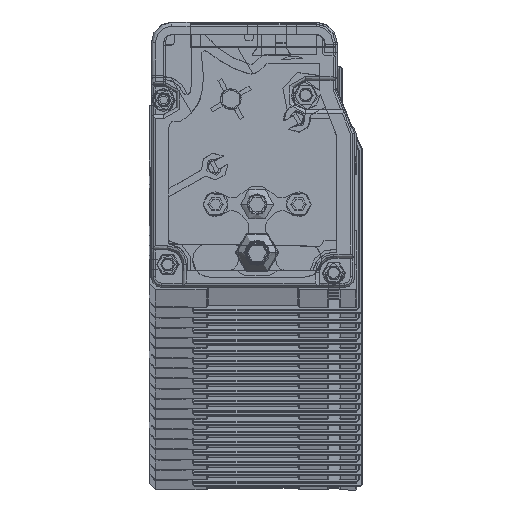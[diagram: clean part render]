
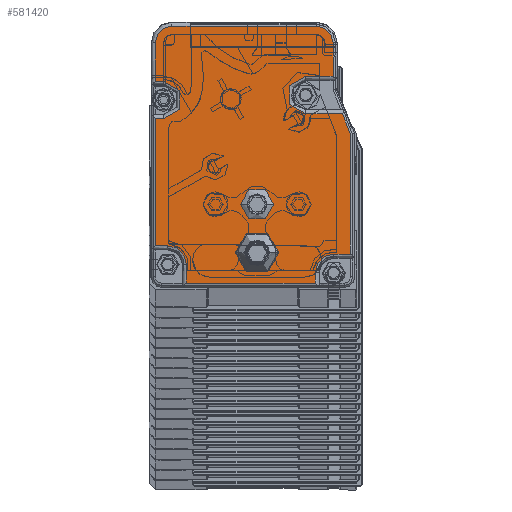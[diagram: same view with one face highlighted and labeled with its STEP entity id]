
A CAD part, top view. The second image highlights one B-rep face of the part: STEP entity #581420.
In plain terms, the highlighted planar face has unit normal (0, 0, 1).
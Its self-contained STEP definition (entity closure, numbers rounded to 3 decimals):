
#501470=CARTESIAN_POINT('',(-20.559,51.727,
2958.89));
#501480=DIRECTION('',(1.,0.,0.));
#501490=VECTOR('',#501480,1.);
#501500=LINE('',#501470,#501490);
#501510=CARTESIAN_POINT('',(-68.559,51.727,
2958.89));
#501520=VERTEX_POINT('',#501510);
#501530=CARTESIAN_POINT('',(-66.559,51.727,
2958.89));
#501540=VERTEX_POINT('',#501530);
#501550=EDGE_CURVE('',#501520,#501540,#501500,.T.);
#502050=CARTESIAN_POINT('',(-20.559,3.124,
2958.89));
#502060=DIRECTION('',(-1.,0.,0.));
#502070=VECTOR('',#502060,1.);
#502080=LINE('',#502050,#502070);
#502090=CARTESIAN_POINT('',(-30.059,3.124,
2958.89));
#502100=VERTEX_POINT('',#502090);
#502110=CARTESIAN_POINT('',(-61.059,3.124,
2958.89));
#502120=VERTEX_POINT('',#502110);
#502130=EDGE_CURVE('',#502100,#502120,#502080,.T.);
#504040=CARTESIAN_POINT('',(-65.559,7.624,
2958.89));
#504050=DIRECTION('',(0.,0.,-1.));
#504060=DIRECTION('',(-1.,0.,0.));
#504070=AXIS2_PLACEMENT_3D('',#504040,#504050,#504060);
#504080=CIRCLE('',#504070,4.5);
#504090=CARTESIAN_POINT('',(-65.559,12.124,
2958.89));
#504100=VERTEX_POINT('',#504090);
#504110=CARTESIAN_POINT('',(-61.059,7.624,
2958.89));
#504120=VERTEX_POINT('',#504110);
#504130=EDGE_CURVE('',#504100,#504120,#504080,.T.);
#544400=CARTESIAN_POINT('',(-32.309,48.424,
2958.89));
#544410=DIRECTION('',(0.,0.,-1.));
#544420=DIRECTION('',(-1.,0.,0.));
#544430=AXIS2_PLACEMENT_3D('',#544400,#544410,#544420);
#544440=CIRCLE('',#544430,4.5);
#544450=CARTESIAN_POINT('',(-32.309,43.924,
2958.89));
#544460=VERTEX_POINT('',#544450);
#544470=CARTESIAN_POINT('',(-32.309,52.924,
2958.89));
#544480=VERTEX_POINT('',#544470);
#544490=EDGE_CURVE('',#544460,#544480,#544440,.T.);
#579420=CARTESIAN_POINT('',(-7.243,2.124,
2958.89));
#579430=DIRECTION('',(0.362,-0.932,0.));
#579440=VECTOR('',#579430,1.);
#579450=LINE('',#579420,#579440);
#579460=CARTESIAN_POINT('',(-23.499,43.924,
2958.89));
#579470=VERTEX_POINT('',#579460);
#579480=CARTESIAN_POINT('',(-21.559,38.937,
2958.89));
#579490=VERTEX_POINT('',#579480);
#579500=EDGE_CURVE('',#579470,#579490,#579450,.T.);
#579780=CARTESIAN_POINT('',(-20.265,1.758,
2958.89));
#579790=DIRECTION('',(0.,0.,-1.));
#579800=DIRECTION('',(-1.,0.,0.));
#579810=AXIS2_PLACEMENT_3D('',#579780,#579790,#579800);
#579820=PLANE('',#579810);
#579830=CARTESIAN_POINT('',(-44.056,10.421,
2958.89));
#579840=DIRECTION('',(0.,0.,-1.));
#579850=DIRECTION('',(-1.,0.,0.));
#579860=AXIS2_PLACEMENT_3D('',#579830,#579840,#579850);
#579870=CIRCLE('',#579860,5.);
#579880=CARTESIAN_POINT('',(-39.056,10.421,
2958.89));
#579890=VERTEX_POINT('',#579880);
#579900=CARTESIAN_POINT('',(-49.056,10.421,
2958.89));
#579910=VERTEX_POINT('',#579900);
#579920=EDGE_CURVE('',#579890,#579910,#579870,.T.);
#579930=ORIENTED_EDGE('',*,*,#579920,.T.);
#579940=EDGE_CURVE('',#579910,#579890,#579870,.T.);
#579950=ORIENTED_EDGE('',*,*,#579940,.T.);
#579960=EDGE_LOOP('',(#579950,#579930));
#579970=FACE_BOUND('',#579960,.T.);
#579980=CARTESIAN_POINT('',(-44.059,22.124,
2958.89));
#579990=DIRECTION('',(0.,0.,1.));
#580000=DIRECTION('',(-1.,0.,0.));
#580010=AXIS2_PLACEMENT_3D('',#579980,#579990,#580000);
#580020=CIRCLE('',#580010,4.);
#580030=CARTESIAN_POINT('',(-40.059,22.124,
2958.89));
#580040=VERTEX_POINT('',#580030);
#580050=CARTESIAN_POINT('',(-48.059,22.124,
2958.89));
#580060=VERTEX_POINT('',#580050);
#580070=EDGE_CURVE('',#580040,#580060,#580020,.T.);
#580080=ORIENTED_EDGE('',*,*,#580070,.F.);
#580090=EDGE_CURVE('',#580060,#580040,#580020,.T.);
#580100=ORIENTED_EDGE('',*,*,#580090,.F.);
#580110=EDGE_LOOP('',(#580100,#580080));
#580120=FACE_BOUND('',#580110,.T.);
#580130=CARTESIAN_POINT('',(-61.059,2.124,
2958.89));
#580140=DIRECTION('',(0.,-1.,0.));
#580150=VECTOR('',#580140,1.);
#580160=LINE('',#580130,#580150);
#580170=EDGE_CURVE('',#504120,#502120,#580160,.T.);
#580180=ORIENTED_EDGE('',*,*,#580170,.T.);
#580190=ORIENTED_EDGE('',*,*,#504130,.T.);
#580200=CARTESIAN_POINT('',(-20.559,12.124,
2958.89));
#580210=DIRECTION('',(1.,0.,0.));
#580220=VECTOR('',#580210,1.);
#580230=LINE('',#580200,#580220);
#580240=CARTESIAN_POINT('',(-68.559,12.124,
2958.89));
#580250=VERTEX_POINT('',#580240);
#580260=EDGE_CURVE('',#580250,#504100,#580230,.T.);
#580270=ORIENTED_EDGE('',*,*,#580260,.T.);
#580280=CARTESIAN_POINT('',(-68.559,2.124,
2958.89));
#580290=DIRECTION('',(0.,-1.,0.));
#580300=VECTOR('',#580290,1.);
#580310=LINE('',#580280,#580300);
#580320=CARTESIAN_POINT('',(-68.559,42.727,
2958.89));
#580330=VERTEX_POINT('',#580320);
#580340=EDGE_CURVE('',#580330,#580250,#580310,.T.);
#580350=ORIENTED_EDGE('',*,*,#580340,.T.);
#580360=CARTESIAN_POINT('',(-20.559,42.727,
2958.89));
#580370=DIRECTION('',(-1.,0.,0.));
#580380=VECTOR('',#580370,1.);
#580390=LINE('',#580360,#580380);
#580400=CARTESIAN_POINT('',(-66.559,42.727,
2958.89));
#580410=VERTEX_POINT('',#580400);
#580420=EDGE_CURVE('',#580410,#580330,#580390,.T.);
#580430=ORIENTED_EDGE('',*,*,#580420,.T.);
#580440=CARTESIAN_POINT('',(-66.559,47.227,
2958.89));
#580450=DIRECTION('',(0.,0.,-1.));
#580460=DIRECTION('',(-1.,0.,0.));
#580470=AXIS2_PLACEMENT_3D('',#580440,#580450,#580460);
#580480=CIRCLE('',#580470,4.5);
#580490=EDGE_CURVE('',#501540,#580410,#580480,.T.);
#580500=ORIENTED_EDGE('',*,*,#580490,.T.);
#580510=ORIENTED_EDGE('',*,*,#501550,.T.);
#580520=CARTESIAN_POINT('',(-68.559,2.124,
2958.89));
#580530=DIRECTION('',(0.,-1.,0.));
#580540=VECTOR('',#580530,1.);
#580550=LINE('',#580520,#580540);
#580560=CARTESIAN_POINT('',(-68.559,61.024,
2958.89));
#580570=VERTEX_POINT('',#580560);
#580580=EDGE_CURVE('',#580570,#501520,#580550,.T.);
#580590=ORIENTED_EDGE('',*,*,#580580,.T.);
#580600=CARTESIAN_POINT('',(-64.559,61.024,
2958.89));
#580610=DIRECTION('',(0.,0.,1.));
#580620=DIRECTION('',(1.,0.,0.));
#580630=AXIS2_PLACEMENT_3D('',#580600,#580610,#580620);
#580640=CIRCLE('',#580630,4.);
#580650=CARTESIAN_POINT('',(-64.559,65.024,
2958.89));
#580660=VERTEX_POINT('',#580650);
#580670=EDGE_CURVE('',#580660,#580570,#580640,.T.);
#580680=ORIENTED_EDGE('',*,*,#580670,.T.);
#580690=CARTESIAN_POINT('',(-20.559,65.024,
2958.89));
#580700=DIRECTION('',(-1.,0.,0.));
#580710=VECTOR('',#580700,1.);
#580720=LINE('',#580690,#580710);
#580730=CARTESIAN_POINT('',(-29.759,65.024,
2958.89));
#580740=VERTEX_POINT('',#580730);
#580750=EDGE_CURVE('',#580740,#580660,#580720,.T.);
#580760=ORIENTED_EDGE('',*,*,#580750,.T.);
#580770=CARTESIAN_POINT('',(-29.759,61.024,
2958.89));
#580780=DIRECTION('',(0.,0.,1.));
#580790=DIRECTION('',(1.,0.,0.));
#580800=AXIS2_PLACEMENT_3D('',#580770,#580780,#580790);
#580810=CIRCLE('',#580800,4.);
#580820=CARTESIAN_POINT('',(-25.759,61.024,
2958.89));
#580830=VERTEX_POINT('',#580820);
#580840=EDGE_CURVE('',#580830,#580740,#580810,.T.);
#580850=ORIENTED_EDGE('',*,*,#580840,.T.);
#580860=CARTESIAN_POINT('',(-25.759,2.124,
2958.89));
#580870=DIRECTION('',(0.,1.,0.));
#580880=VECTOR('',#580870,1.);
#580890=LINE('',#580860,#580880);
#580900=CARTESIAN_POINT('',(-25.759,52.924,
2958.89));
#580910=VERTEX_POINT('',#580900);
#580920=EDGE_CURVE('',#580910,#580830,#580890,.T.);
#580930=ORIENTED_EDGE('',*,*,#580920,.T.);
#580940=CARTESIAN_POINT('',(-20.559,52.924,
2958.89));
#580950=DIRECTION('',(-1.,0.,0.));
#580960=VECTOR('',#580950,1.);
#580970=LINE('',#580940,#580960);
#580980=EDGE_CURVE('',#580910,#544480,#580970,.T.);
#580990=ORIENTED_EDGE('',*,*,#580980,.F.);
#581000=ORIENTED_EDGE('',*,*,#544490,.T.);
#581010=CARTESIAN_POINT('',(-20.559,43.924,
2958.89));
#581020=DIRECTION('',(-1.,0.,0.));
#581030=VECTOR('',#581020,1.);
#581040=LINE('',#581010,#581030);
#581050=EDGE_CURVE('',#579470,#544460,#581040,.T.);
#581060=ORIENTED_EDGE('',*,*,#581050,.T.);
#581070=ORIENTED_EDGE('',*,*,#579500,.F.);
#581080=CARTESIAN_POINT('',(-21.559,2.124,
2958.89));
#581090=DIRECTION('',(0.,-1.,0.));
#581100=VECTOR('',#581090,1.);
#581110=LINE('',#581080,#581100);
#581120=CARTESIAN_POINT('',(-21.559,10.124,
2958.89));
#581130=VERTEX_POINT('',#581120);
#581140=EDGE_CURVE('',#579490,#581130,#581110,.T.);
#581150=ORIENTED_EDGE('',*,*,#581140,.F.);
#581160=CARTESIAN_POINT('',(-20.559,10.124,
2958.89));
#581170=DIRECTION('',(1.,0.,0.));
#581180=VECTOR('',#581170,1.);
#581190=LINE('',#581160,#581180);
#581200=CARTESIAN_POINT('',(-25.559,10.124,
2958.89));
#581210=VERTEX_POINT('',#581200);
#581220=EDGE_CURVE('',#581210,#581130,#581190,.T.);
#581230=ORIENTED_EDGE('',*,*,#581220,.T.);
#581240=CARTESIAN_POINT('',(-25.559,5.624,
2958.89));
#581250=DIRECTION('',(0.,0.,-1.));
#581260=DIRECTION('',(-1.,0.,0.));
#581270=AXIS2_PLACEMENT_3D('',#581240,#581250,#581260);
#581280=CIRCLE('',#581270,4.5);
#581290=CARTESIAN_POINT('',(-30.059,5.624,
2958.89));
#581300=VERTEX_POINT('',#581290);
#581310=EDGE_CURVE('',#581300,#581210,#581280,.T.);
#581320=ORIENTED_EDGE('',*,*,#581310,.T.);
#581330=CARTESIAN_POINT('',(-30.059,2.124,
2958.89));
#581340=DIRECTION('',(0.,1.,0.));
#581350=VECTOR('',#581340,1.);
#581360=LINE('',#581330,#581350);
#581370=EDGE_CURVE('',#502100,#581300,#581360,.T.);
#581380=ORIENTED_EDGE('',*,*,#581370,.T.);
#581390=ORIENTED_EDGE('',*,*,#502130,.F.);
#581400=EDGE_LOOP('',(#581390,#581380,#581320,#581230,#581150,#581070,
#581060,#581000,#580990,#580930,#580850,#580760,#580680,#580590,#580510,
#580500,#580430,#580350,#580270,#580190,#580180));
#581410=FACE_OUTER_BOUND('',#581400,.T.);
#581420=ADVANCED_FACE('',(#579970,#580120,#581410),#579820,.F.);
